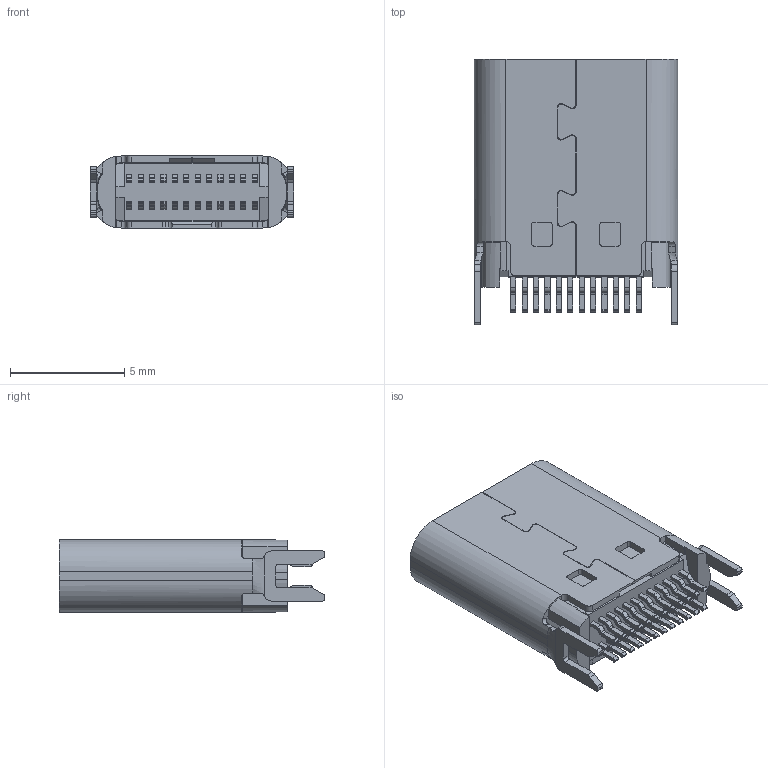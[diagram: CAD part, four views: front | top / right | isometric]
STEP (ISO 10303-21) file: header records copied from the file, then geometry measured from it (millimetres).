
FILE_DESCRIPTION (( 'STEP AP203' ), '1' );
FILE_NAME ('8.夹板型-1.0mm一体10.0.STEP', '2023-04-08T09:33:42', ( '微软用户' ), ( '微软中国' ), 'SwSTEP 2.0', 'SolidWorks 2019', '' );
FILE_SCHEMA (( 'CONFIG_CONTROL_DESIGN' ));
Length unit declared in the file: millimetre
Products named in the file (1): 8.標啣倰-1.0mm珨极10.0
Bounding box: 8.94 x 11.65 x 3.16 mm (x, y, z)
Volume: 160.4 mm3; surface area: 629.1 mm2
Topology: 1 solids, 1 shells, 934 faces, 2678 edges, 1770 vertices
Faces by surface type: plane 628, cylinder 274, bspline 16, cone 8, torus 8
Entity records: 31108 total; most frequent: CARTESIAN_POINT 6240, ORIENTED_EDGE 5356, DIRECTION 4999, EDGE_CURVE 2678, VECTOR 2025, LINE 2025, VERTEX_POINT 1770, AXIS2_PLACEMENT_3D 1487
